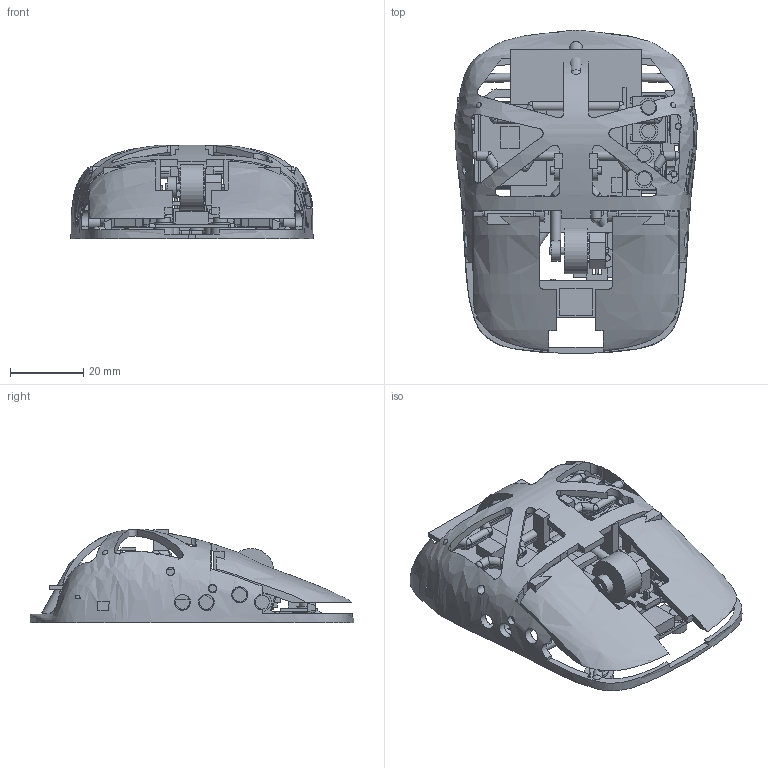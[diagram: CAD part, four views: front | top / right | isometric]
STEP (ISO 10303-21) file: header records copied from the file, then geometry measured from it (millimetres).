
FILE_DESCRIPTION(('Open CASCADE Model'),'2;1');
FILE_NAME('Open CASCADE Shape Model','2026-10-17T17:24:21',('Author'),( 'Open CASCADE'),'Open CASCADE STEP processor 7.9','Open CASCADE 7.9' ,'Unknown');
FILE_SCHEMA(('AUTOMOTIVE_DESIGN { 1 0 10303 214 1 1 1 1 }'));
Length unit declared in the file: millimetre
Products named in the file (83): Quietmirror_L2_D_EST; BODY; LEFT_KEY; RIGHT_KEY; SIDE_FRONT_KEY; SIDE_FRONT_KEY_SWITCH_CLAMP; SIDE_REAR_KEY; SIDE_REAR_KEY_SWITCH_CLAMP; WHEEL; WHEEL_CARRIER; LEFT_KEY_STEEL_PIN; LEFT_KEY_M2_SWITCH_1_BOLT; LEFT_KEY_M2_SWITCH_1_WASHER_NUT; LEFT_KEY_M2_SWITCH_1_WASHER_HEAD; LEFT_KEY_M2_SWITCH_1_NUT; LEFT_KEY_M2_SWITCH_2_BOLT; LEFT_KEY_M2_SWITCH_2_WASHER_NUT; LEFT_KEY_M2_SWITCH_2_WASHER_HEAD; LEFT_KEY_M2_SWITCH_2_NUT; SWITCH_LEFT; RIGHT_KEY_STEEL_PIN; RIGHT_KEY_M2_SWITCH_1_BOLT; RIGHT_KEY_M2_SWITCH_1_WASHER_NUT; RIGHT_KEY_M2_SWITCH_1_WASHER_HEAD; RIGHT_KEY_M2_SWITCH_1_NUT; RIGHT_KEY_M2_SWITCH_2_BOLT; RIGHT_KEY_M2_SWITCH_2_WASHER_NUT; RIGHT_KEY_M2_SWITCH_2_WASHER_HEAD; RIGHT_KEY_M2_SWITCH_2_NUT; SWITCH_RIGHT; SIDE_FRONT_KEY_CAPTURE_PIN; SIDE_FRONT_KEY_M2_SWITCH_1_BOLT; SIDE_FRONT_KEY_M2_SWITCH_1_WASHER_NUT; SIDE_FRONT_KEY_M2_SWITCH_1_WASHER_HEAD; SIDE_FRONT_KEY_M2_SWITCH_1_NUT; SIDE_FRONT_KEY_M2_SWITCH_2_BOLT; SIDE_FRONT_KEY_M2_SWITCH_2_WASHER_NUT; SIDE_FRONT_KEY_M2_SWITCH_2_WASHER_HEAD; SIDE_FRONT_KEY_M2_SWITCH_2_NUT; SWITCH_SIDE_FRONT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
Assembly tree (82 placements, depth 2):
  Quietmirror_L2_D_EST
    BODY
    LEFT_KEY
    RIGHT_KEY
    SIDE_FRONT_KEY
    SIDE_FRONT_KEY_SWITCH_CLAMP
    SIDE_REAR_KEY
    SIDE_REAR_KEY_SWITCH_CLAMP
    WHEEL
    WHEEL_CARRIER
    LEFT_KEY_STEEL_PIN
    LEFT_KEY_M2_SWITCH_1_BOLT
    LEFT_KEY_M2_SWITCH_1_WASHER_NUT
    LEFT_KEY_M2_SWITCH_1_WASHER_HEAD
    LEFT_KEY_M2_SWITCH_1_NUT
    LEFT_KEY_M2_SWITCH_2_BOLT
    LEFT_KEY_M2_SWITCH_2_WASHER_NUT
    LEFT_KEY_M2_SWITCH_2_WASHER_HEAD
    LEFT_KEY_M2_SWITCH_2_NUT
    SWITCH_LEFT
    RIGHT_KEY_STEEL_PIN
    RIGHT_KEY_M2_SWITCH_1_BOLT
    RIGHT_KEY_M2_SWITCH_1_WASHER_NUT
    RIGHT_KEY_M2_SWITCH_1_WASHER_HEAD
    RIGHT_KEY_M2_SWITCH_1_NUT
    RIGHT_KEY_M2_SWITCH_2_BOLT
    RIGHT_KEY_M2_SWITCH_2_WASHER_NUT
    RIGHT_KEY_M2_SWITCH_2_WASHER_HEAD
    RIGHT_KEY_M2_SWITCH_2_NUT
    SWITCH_RIGHT
    SIDE_FRONT_KEY_CAPTURE_PIN
    SIDE_FRONT_KEY_M2_SWITCH_1_BOLT
    SIDE_FRONT_KEY_M2_SWITCH_1_WASHER_NUT
    SIDE_FRONT_KEY_M2_SWITCH_1_WASHER_HEAD
    SIDE_FRONT_KEY_M2_SWITCH_1_NUT
    SIDE_FRONT_KEY_M2_SWITCH_2_BOLT
    SIDE_FRONT_KEY_M2_SWITCH_2_WASHER_NUT
    SIDE_FRONT_KEY_M2_SWITCH_2_WASHER_HEAD
    SIDE_FRONT_KEY_M2_SWITCH_2_NUT
    SWITCH_SIDE_FRONT
    SIDE_REAR_KEY_CAPTURE_PIN
    SIDE_REAR_KEY_M2_SWITCH_1_BOLT
    SIDE_REAR_KEY_M2_SWITCH_1_WASHER_NUT
    SIDE_REAR_KEY_M2_SWITCH_1_WASHER_HEAD
    SIDE_REAR_KEY_M2_SWITCH_1_NUT
    SIDE_REAR_KEY_M2_SWITCH_2_BOLT
    SIDE_REAR_KEY_M2_SWITCH_2_WASHER_NUT
    SIDE_REAR_KEY_M2_SWITCH_2_WASHER_HEAD
    SIDE_REAR_KEY_M2_SWITCH_2_NUT
    SWITCH_SIDE_REAR
    ENCODER_EC10E_HOUSING
    ENCODER_EC10E_ROTOR
    WHEEL_CARRIER_STEEL_PIN
    SWITCH_MIDDLE
    WHEEL_M2_SWITCH_1_BOLT
    WHEEL_M2_SWITCH_1_WASHER_NUT
    WHEEL_M2_SWITCH_1_WASHER_HEAD
    WHEEL_M2_SWITCH_1_NUT
    WHEEL_M2_SWITCH_2_BOLT
    WHEEL_M2_SWITCH_2_WASHER_NUT
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Bounding box: 66.07 x 88.24 x 25.47 mm (x, y, z)
Volume: 29820.3 mm3; surface area: 40821.5 mm2
Topology: 82 solids, 82 shells, 2012 faces, 5362 edges, 3480 vertices
Faces by surface type: plane 1431, cylinder 439, sphere 100, bspline 42
Full cylindrical faces by diameter (mm): 1.25 x6, 1.5 x2, 1.7 x6, 1.72 x3, 2 x40, 2.2 x24, 2.3 x2, 2.35 x14, 2.4 x28, 2.5 x3, 2.6 x11, 2.7 x7, 2.98 x1, 3.2 x3, 3.8 x14, 4.2 x2, 4.3 x3, 5 x22, 5.2 x4, 5.3 x2, 12.5 x1
Entity records: 411472 total; most frequent: CARTESIAN_POINT 307526, DIRECTION 17789, LINE 10728, VECTOR 10728, ORIENTED_EDGE 10640, PCURVE 10640, DEFINITIONAL_REPRESENTATION 10640, EDGE_CURVE 5320
